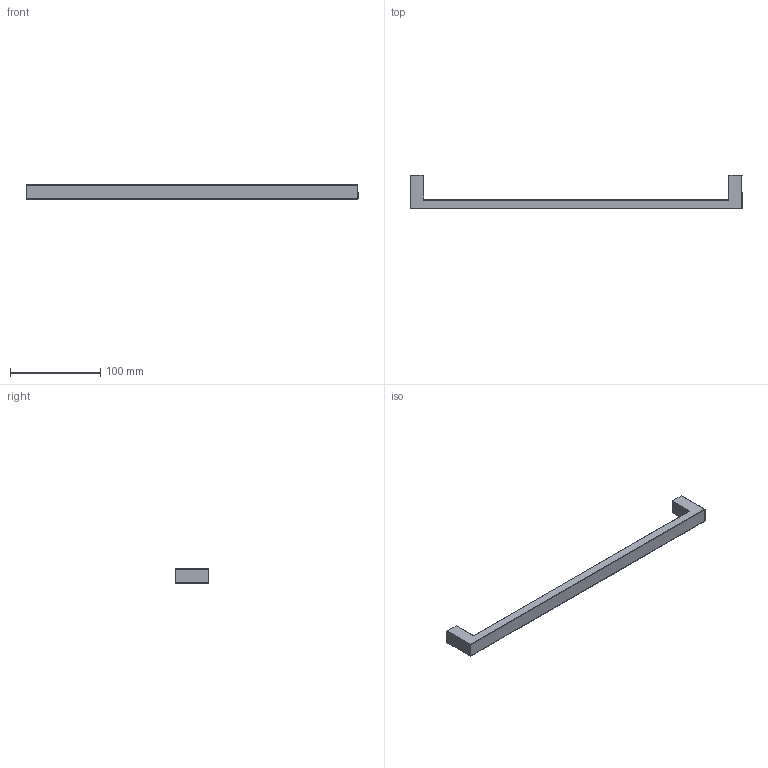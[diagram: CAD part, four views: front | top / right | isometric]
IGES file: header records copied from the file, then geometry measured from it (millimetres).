
Start section: Data from Parasolid IGES Translator 15.0.47, Copyright(c) 2006 Siemens P LM Software. All Rights Reserved.
Global section: file name: 9113250.igs; native system:  By UGS Corp.; preprocessor: XPlus GENERIC/IGES 3.0; author: Noname; organization: Noname; date: 20140122.181707; units: millimetre
Bounding box: 367 x 37 x 16.01 mm (x, y, z)
Surface area: 22582.6 mm2 (no closed solid volume)
Topology: 0 solids, 0 shells, 34 faces, 164 edges, 162 vertices
Faces by surface type: revolution 18, extrusion 16
